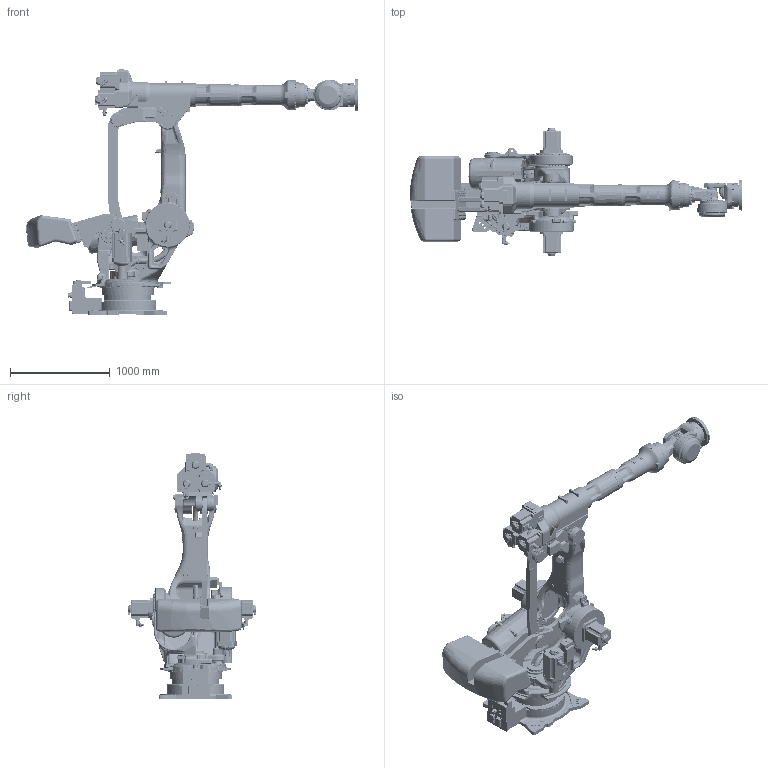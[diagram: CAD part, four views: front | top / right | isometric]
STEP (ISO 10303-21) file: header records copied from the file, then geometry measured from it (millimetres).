
FILE_DESCRIPTION(/* description */ (''),/* implementation_level */ '2;1');
FILE_NAME(/* name */ 'gp400.stp',/* time_stamp */ '2018-05-25T17:15:27+02:00',/* author */ (''),/* organization */ (''),/* preprocessor_version */ 'ST-DEVELOPER v16',/* originating_system */ 'SIEMENS PLM Software NX 10.0',/* authorisation */ '');
FILE_SCHEMA (('AUTOMOTIVE_DESIGN { 1 0 10303 214 3 1 1 1 }'));
Products named in the file (12): BALANCER_2_AXIS; BALANCER_1_AXIS; LINK_A_AXIS; LINK_B_AXIS; T_AXIS; B_AXIS; R_AXIS; U_AXIS; L_AXIS; S_AXIS; BASE_AXIS; gp400
Assembly tree (11 placements, depth 2):
  gp400
    BASE_AXIS
    S_AXIS
    L_AXIS
    U_AXIS
    R_AXIS
    B_AXIS
    T_AXIS
    LINK_B_AXIS
    LINK_A_AXIS
    BALANCER_1_AXIS
    BALANCER_2_AXIS
Bounding box: 3321.91 x 1287 x 2460 mm (x, y, z)
Volume: 596885919.9 mm3; surface area: 17019828.4 mm2
Topology: 11 solids, 12 shells, 12040 faces, 28629 edges, 17290 vertices
Faces by surface type: cylinder 4490, plane 3208, bspline 1953, torus 1274, cone 831, sphere 261, extrusion 17, revolution 6
Entity records: 524758 total; most frequent: CARTESIAN_POINT 256412, ORIENTED_EDGE 57198, DIRECTION 55716, EDGE_CURVE 28599, AXIS2_PLACEMENT_3D 22519, VERTEX_POINT 17290, EDGE_LOOP 12845, CIRCLE 12370
